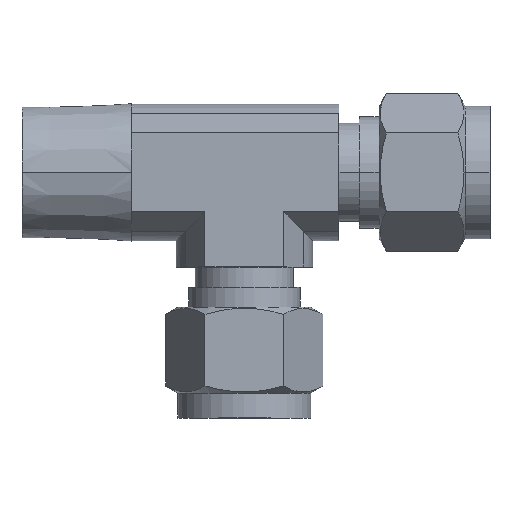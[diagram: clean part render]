
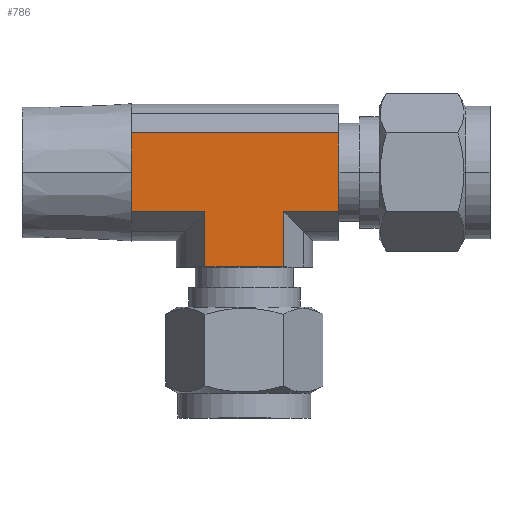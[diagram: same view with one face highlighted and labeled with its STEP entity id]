
A CAD part, top view. The second image highlights one B-rep face of the part: STEP entity #786.
In plain terms, the highlighted planar face has unit normal (0, 0, 1).
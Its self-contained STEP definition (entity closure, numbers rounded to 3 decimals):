
#64 = CARTESIAN_POINT ( 'NONE',  ( 5.052, -5.052, 8.75 ) ) ;
#86 = DIRECTION ( 'NONE',  ( 0., 1., 0. ) ) ;
#87 = VECTOR ( 'NONE', #86, 1000. ) ;
#88 = CARTESIAN_POINT ( 'NONE',  ( -14.5, -5.052, 8.75 ) ) ;
#89 = LINE ( 'NONE', #88, #87 ) ;
#90 = DIRECTION ( 'NONE',  ( 0., 1., 0. ) ) ;
#91 = VECTOR ( 'NONE', #90, 1000. ) ;
#92 = CARTESIAN_POINT ( 'NONE',  ( -14.5, -5.052, 8.75 ) ) ;
#93 = LINE ( 'NONE', #92, #91 ) ;
#94 = DIRECTION ( 'NONE',  ( 0., 1., 0. ) ) ;
#95 = VECTOR ( 'NONE', #94, 1000. ) ;
#96 = CARTESIAN_POINT ( 'NONE',  ( 5.052, -12.14, 8.75 ) ) ;
#97 = LINE ( 'NONE', #96, #95 ) ;
#141 = CARTESIAN_POINT ( 'NONE',  ( -5.052, -5.052, 8.75 ) ) ;
#148 = DIRECTION ( 'NONE',  ( -1., 0., 0. ) ) ;
#149 = VECTOR ( 'NONE', #148, 1000. ) ;
#150 = CARTESIAN_POINT ( 'NONE',  ( 12.14, -5.052, 8.75 ) ) ;
#151 = LINE ( 'NONE', #150, #149 ) ;
#208 = CARTESIAN_POINT ( 'NONE',  ( -14.5, -5.052, 8.75 ) ) ;
#209 = DIRECTION ( 'NONE',  ( -1., 0., 0. ) ) ;
#210 = VECTOR ( 'NONE', #209, 1000. ) ;
#211 = CARTESIAN_POINT ( 'NONE',  ( 12.14, -5.052, 8.75 ) ) ;
#212 = LINE ( 'NONE', #211, #210 ) ;
#346 = VERTEX_POINT ( 'NONE', #1411 ) ;
#473 = VERTEX_POINT ( 'NONE', #1857 ) ;
#475 = EDGE_CURVE ( 'NONE', #473, #476, #1856, .T. ) ;
#476 = VERTEX_POINT ( 'NONE', #1852 ) ;
#668 = VERTEX_POINT ( 'NONE', #2017 ) ;
#671 = EDGE_CURVE ( 'NONE', #668, #672, #2137, .T. ) ;
#672 = VERTEX_POINT ( 'NONE', #2133 ) ;
#707 = VERTEX_POINT ( 'NONE', #2368 ) ;
#709 = EDGE_CURVE ( 'NONE', #707, #710, #2367, .T. ) ;
#710 = VERTEX_POINT ( 'NONE', #2363 ) ;
#784 = EDGE_CURVE ( 'NONE', #707, #672, #2468, .T. ) ;
#786 = ADVANCED_FACE ( 'NONE', ( #2464 ), #2462, .F. ) ;
#787 = EDGE_LOOP ( 'NONE', ( #788, #789, #791, #855, #857, #858, #859, #860, #861, #863 ) ) ;
#788 = ORIENTED_EDGE ( 'NONE', *, *, #886, .F. ) ;
#789 = ORIENTED_EDGE ( 'NONE', *, *, #790, .F. ) ;
#790 = EDGE_CURVE ( 'NONE', #476, #882, #2463, .T. ) ;
#791 = ORIENTED_EDGE ( 'NONE', *, *, #475, .F. ) ;
#855 = ORIENTED_EDGE ( 'NONE', *, *, #856, .T. ) ;
#856 = EDGE_CURVE ( 'NONE', #473, #873, #97, .T. ) ;
#857 = ORIENTED_EDGE ( 'NONE', *, *, #878, .F. ) ;
#858 = ORIENTED_EDGE ( 'NONE', *, *, #709, .F. ) ;
#859 = ORIENTED_EDGE ( 'NONE', *, *, #784, .T. ) ;
#860 = ORIENTED_EDGE ( 'NONE', *, *, #671, .F. ) ;
#861 = ORIENTED_EDGE ( 'NONE', *, *, #862, .F. ) ;
#862 = EDGE_CURVE ( 'NONE', #346, #668, #93, .T. ) ;
#863 = ORIENTED_EDGE ( 'NONE', *, *, #864, .F. ) ;
#864 = EDGE_CURVE ( 'NONE', #887, #346, #89, .T. ) ;
#873 = VERTEX_POINT ( 'NONE', #64 ) ;
#878 = EDGE_CURVE ( 'NONE', #710, #873, #151, .T. ) ;
#882 = VERTEX_POINT ( 'NONE', #141 ) ;
#886 = EDGE_CURVE ( 'NONE', #882, #887, #212, .T. ) ;
#887 = VERTEX_POINT ( 'NONE', #208 ) ;
#1411 = CARTESIAN_POINT ( 'NONE',  ( -14.5, -0.92, 8.75 ) ) ;
#1852 = CARTESIAN_POINT ( 'NONE',  ( -5.052, -12.14, 8.75 ) ) ;
#1853 = DIRECTION ( 'NONE',  ( -1., 0., 0. ) ) ;
#1854 = VECTOR ( 'NONE', #1853, 1000. ) ;
#1855 = CARTESIAN_POINT ( 'NONE',  ( 5.052, -12.14, 8.75 ) ) ;
#1856 = LINE ( 'NONE', #1855, #1854 ) ;
#1857 = CARTESIAN_POINT ( 'NONE',  ( 5.052, -12.14, 8.75 ) ) ;
#2017 = CARTESIAN_POINT ( 'NONE',  ( -14.5, 0.92, 8.75 ) ) ;
#2133 = CARTESIAN_POINT ( 'NONE',  ( -14.5, 5.052, 8.75 ) ) ;
#2134 = DIRECTION ( 'NONE',  ( 0., 1., 0. ) ) ;
#2135 = VECTOR ( 'NONE', #2134, 1000. ) ;
#2136 = CARTESIAN_POINT ( 'NONE',  ( -14.5, -5.052, 8.75 ) ) ;
#2137 = LINE ( 'NONE', #2136, #2135 ) ;
#2363 = CARTESIAN_POINT ( 'NONE',  ( 12.14, -5.052, 8.75 ) ) ;
#2364 = DIRECTION ( 'NONE',  ( 0., -1., 0. ) ) ;
#2365 = VECTOR ( 'NONE', #2364, 1000. ) ;
#2366 = CARTESIAN_POINT ( 'NONE',  ( 12.14, 5.052, 8.75 ) ) ;
#2367 = LINE ( 'NONE', #2366, #2365 ) ;
#2368 = CARTESIAN_POINT ( 'NONE',  ( 12.14, 5.052, 8.75 ) ) ;
#2455 = DIRECTION ( 'NONE',  ( 0., 1., 0. ) ) ;
#2456 = VECTOR ( 'NONE', #2455, 1000. ) ;
#2457 = CARTESIAN_POINT ( 'NONE',  ( -5.052, -12.14, 8.75 ) ) ;
#2458 = DIRECTION ( 'NONE',  ( 0., 1., 0. ) ) ;
#2459 = DIRECTION ( 'NONE',  ( 0., 0., -1. ) ) ;
#2460 = CARTESIAN_POINT ( 'NONE',  ( 12.14, 5.052, 8.75 ) ) ;
#2461 = AXIS2_PLACEMENT_3D ( 'NONE', #2460, #2459, #2458 ) ;
#2462 = PLANE ( 'NONE',  #2461 ) ;
#2463 = LINE ( 'NONE', #2457, #2456 ) ;
#2464 = FACE_OUTER_BOUND ( 'NONE', #787, .T. ) ;
#2465 = DIRECTION ( 'NONE',  ( -1., 0., 0. ) ) ;
#2466 = VECTOR ( 'NONE', #2465, 1000. ) ;
#2467 = CARTESIAN_POINT ( 'NONE',  ( 12.14, 5.052, 8.75 ) ) ;
#2468 = LINE ( 'NONE', #2467, #2466 ) ;
